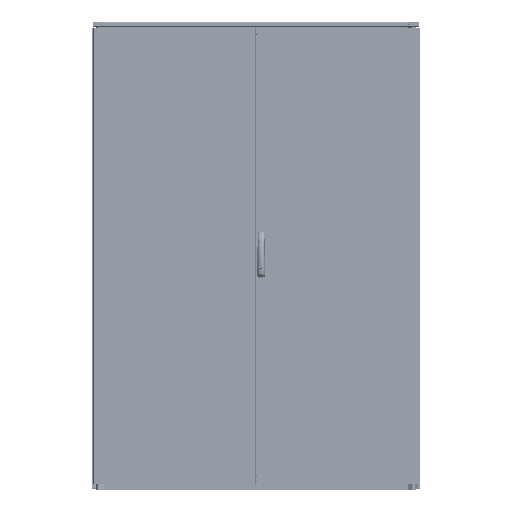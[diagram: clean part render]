
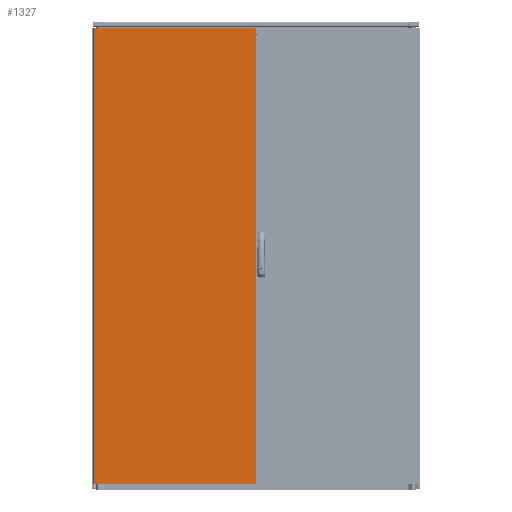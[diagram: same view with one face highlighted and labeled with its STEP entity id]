
A CAD part, top view. The second image highlights one B-rep face of the part: STEP entity #1327.
In plain terms, the highlighted planar face has unit normal (0, 0, 1).
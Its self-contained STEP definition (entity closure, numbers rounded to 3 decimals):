
#1327 = ADVANCED_FACE ( 'NONE', ( #82472 ), #157123, .F. ) ;
#9803 = VERTEX_POINT ( 'NONE', #207103 ) ;
#12028 = DIRECTION ( 'NONE',  ( 0., 1., 0. ) ) ;
#31448 = CARTESIAN_POINT ( 'NONE',  ( 0., 1957., 19. ) ) ;
#43823 = LINE ( 'NONE', #419865, #134731 ) ;
#56525 = EDGE_CURVE ( 'NONE', #9803, #119754, #132610, .T. ) ;
#72540 = EDGE_CURVE ( 'NONE', #254459, #100946, #137887, .T. ) ;
#80209 = VECTOR ( 'NONE', #331991, 1000. ) ;
#82472 = FACE_OUTER_BOUND ( 'NONE', #391160, .T. ) ;
#100946 = VERTEX_POINT ( 'NONE', #282673 ) ;
#113926 = AXIS2_PLACEMENT_3D ( 'NONE', #324792, #327019, #331413 ) ;
#119754 = VERTEX_POINT ( 'NONE', #258589 ) ;
#119837 = ORIENTED_EDGE ( 'NONE', *, *, #221129, .T. ) ;
#121877 = VECTOR ( 'NONE', #235324, 1000. ) ;
#132610 = LINE ( 'NONE', #421791, #284248 ) ;
#134731 = VECTOR ( 'NONE', #12028, 1000. ) ;
#137887 = LINE ( 'NONE', #31448, #121877 ) ;
#157123 = PLANE ( 'NONE',  #113926 ) ;
#172800 = LINE ( 'NONE', #276977, #80209 ) ;
#190612 = ORIENTED_EDGE ( 'NONE', *, *, #56525, .T. ) ;
#207103 = CARTESIAN_POINT ( 'NONE',  ( 2.001, 3., 19. ) ) ;
#221129 = EDGE_CURVE ( 'NONE', #100946, #9803, #172800, .T. ) ;
#235324 = DIRECTION ( 'NONE',  ( -1., 0., 0. ) ) ;
#254459 = VERTEX_POINT ( 'NONE', #321895 ) ;
#258589 = CARTESIAN_POINT ( 'NONE',  ( 692., 3., 19. ) ) ;
#276977 = CARTESIAN_POINT ( 'NONE',  ( 2.001, 3., 19. ) ) ;
#282673 = CARTESIAN_POINT ( 'NONE',  ( 2.001, 1957., 19. ) ) ;
#284248 = VECTOR ( 'NONE', #387767, 1000. ) ;
#305922 = ORIENTED_EDGE ( 'NONE', *, *, #405277, .T. ) ;
#321895 = CARTESIAN_POINT ( 'NONE',  ( 692., 1957., 19. ) ) ;
#324792 = CARTESIAN_POINT ( 'NONE',  ( 0., 1960., 19. ) ) ;
#327019 = DIRECTION ( 'NONE',  ( 0., 0., -1. ) ) ;
#327277 = ORIENTED_EDGE ( 'NONE', *, *, #72540, .T. ) ;
#331413 = DIRECTION ( 'NONE',  ( -1., 0., 0. ) ) ;
#331991 = DIRECTION ( 'NONE',  ( 0., -1., 0. ) ) ;
#387767 = DIRECTION ( 'NONE',  ( 1., 0., 0. ) ) ;
#391160 = EDGE_LOOP ( 'NONE', ( #327277, #119837, #190612, #305922 ) ) ;
#405277 = EDGE_CURVE ( 'NONE', #119754, #254459, #43823, .T. ) ;
#419865 = CARTESIAN_POINT ( 'NONE',  ( 692., 1960., 19. ) ) ;
#421791 = CARTESIAN_POINT ( 'NONE',  ( 0., 3., 19. ) ) ;
